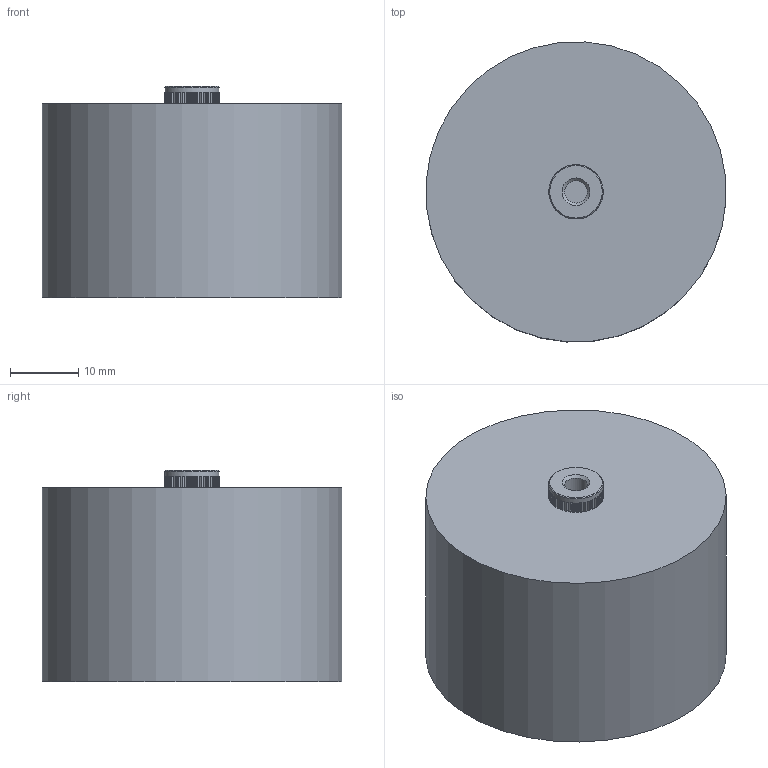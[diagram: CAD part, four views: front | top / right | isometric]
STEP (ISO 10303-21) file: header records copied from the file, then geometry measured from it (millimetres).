
FILE_DESCRIPTION((''),'2;1');
FILE_NAME('I:\Marketing\M6t1\M6T1 - Internal\Drawings\Werk 3\Finished product\Ceramite\Upload for homepage\715\715C###KT###\715C40KTD10.stp','2013-06-10T14:45:33',('sherden'),(''),'Autodesk Inventor 2013','Autodesk Inventor 2013','');
FILE_SCHEMA(('AUTOMOTIVE_DESIGN { 1 2 10303 214 0 1 1 1 }'));
Length unit declared in the file: millimetre
Products named in the file (1): 715C40KTD10
Bounding box: 43.91 x 43.91 x 31 mm (x, y, z)
Volume: 43305.6 mm3; surface area: 7327.7 mm2
Topology: 1 solids, 41 shells, 573 faces, 1419 edges, 932 vertices
Faces by surface type: plane 486, cylinder 84, cone 3
Full cylindrical faces by diameter (mm): 3.302 x2, 7.95 x1, 44 x1
Entity records: 17304 total; most frequent: CARTESIAN_POINT 2916, ORIENTED_EDGE 2822, DIRECTION 2810, EDGE_CURVE 1411, VECTOR 1160, LINE 1160, VERTEX_POINT 931, AXIS2_PLACEMENT_3D 825
